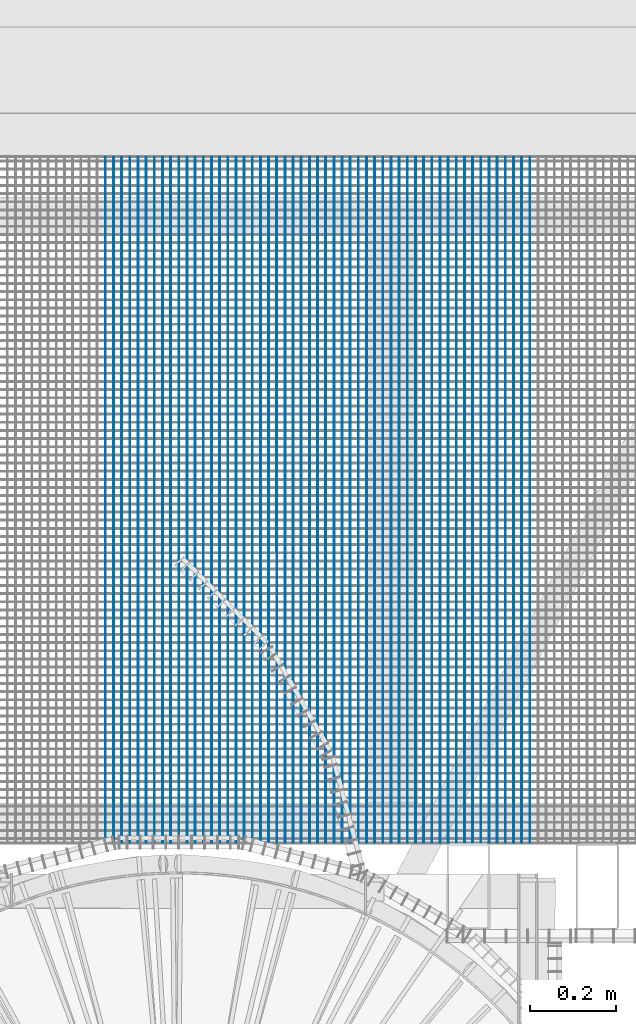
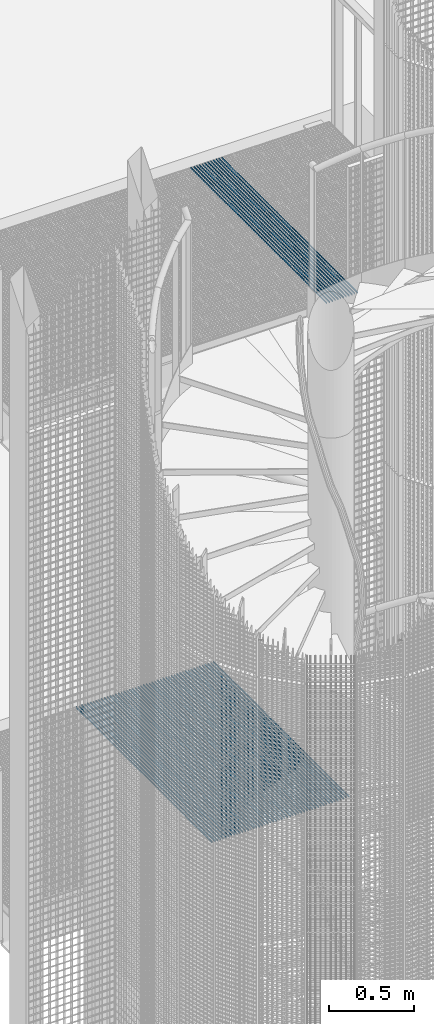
# One storey, part 99 of 1183: 62 beams, 2 elements without a shape of their own.
"""IFC2X3 building model written with IfcOpenShell, lengths in millimetres."""

from ifc_helpers import new_model, si_unit, frame, origin_with_axes, origin_2d_with_axis, place, context, subcontext, project, spatial, rectangle, extrude, material, type_object, element, aggregate, save


model = new_model("IFC2X3")

# Units and contexts
model_context = context("Model", 3, precision=1e-05, world=origin_with_axes())
body_context = subcontext(model_context, "Body", "Model", "MODEL_VIEW")
ifc_project = project(units=[si_unit("LENGTHUNIT", "METRE", prefix="MILLI"), si_unit("AREAUNIT", "SQUARE_METRE"), si_unit("VOLUMEUNIT", "CUBIC_METRE"), si_unit("MASSUNIT", "GRAM", prefix="KILO"), si_unit("TIMEUNIT", "SECOND"), si_unit("PLANEANGLEUNIT", "RADIAN"), si_unit("SOLIDANGLEUNIT", "STERADIAN"), si_unit("THERMODYNAMICTEMPERATUREUNIT", "DEGREE_CELSIUS"), si_unit("LUMINOUSINTENSITYUNIT", "LUMEN")], contexts=[model_context])

# Site, building, storey
site_placement = place(None, origin_with_axes())
site = spatial("IfcSite", under=ifc_project, at=site_placement, Name="Undefined", CompositionType="ELEMENT")
building_placement = place(site_placement, origin_with_axes())
building = spatial("IfcBuilding", under=site, at=building_placement, Name="Undefined", CompositionType="ELEMENT")
storey_placement = place(building_placement, origin_with_axes())
storey = spatial("IfcBuildingStorey", under=building, at=storey_placement, Name="Undefined", CompositionType="ELEMENT", Elevation=0.0)

# Assembly, beams
assembly_1_placement = place(storey_placement, origin_with_axes())
assembly_1 = element("IfcElementAssembly", 1, at=assembly_1_placement, inside=storey, Name="BORDURE", AssemblyPlace="NOTDEFINED", PredefinedType="NOTDEFINED")
ifc_material = material(Name="STEEL/S235JR")
beam_type = type_object("IfcBeamType", Name="PL2*10", PredefinedType="NOTDEFINED")
beam_1_placement = place(assembly_1_placement, frame((22208.1154247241, 1102.00531160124, 10085.0), z_axis=(0.0, 0.0, 1.0), x_axis=(-4.50599999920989e-06, 0.999999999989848, 0.0)))
beam_1 = element("IfcBeam", 2, at=beam_1_placement, type_object=beam_type, material=ifc_material, Name="ENTRETOISE", context=body_context, shape_type="SweptSolid", body=[
    extrude(rectangle(XDim=2.0, YDim=10.0, at=origin_2d_with_axis()), frame((1596.0000000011, -1.35186458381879e-18, -7.27595761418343e-12), z_axis=(-1.0, 0.0, 0.0), x_axis=(0.0, -1.0, 0.0)), (0.0, 0.0, 1.0), 1596.0),
])
beam_2_placement = place(assembly_1_placement, frame((22227.115424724, 1102.00540511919, 10085.0), z_axis=(0.0, 0.0, 1.0), x_axis=(-4.50599999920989e-06, 0.999999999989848, 0.0)))
beam_2 = element("IfcBeam", 3, at=beam_2_placement, type_object=beam_type, material=ifc_material, Name="ENTRETOISE", context=body_context, shape_type="SweptSolid", body=[
    extrude(rectangle(XDim=2.0, YDim=10.0, at=origin_2d_with_axis()), frame((1596.0000000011, -1.35186458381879e-18, -7.27595761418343e-12), z_axis=(-1.0, 0.0, 0.0), x_axis=(0.0, -1.0, 0.0)), (0.0, 0.0, 1.0), 1596.0),
])
beam_3_placement = place(assembly_1_placement, frame((22246.1154247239, 1102.00549863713, 10085.0), z_axis=(0.0, 0.0, 1.0), x_axis=(-4.50599999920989e-06, 0.999999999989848, 0.0)))
beam_3 = element("IfcBeam", 4, at=beam_3_placement, type_object=beam_type, material=ifc_material, Name="ENTRETOISE", context=body_context, shape_type="SweptSolid", body=[
    extrude(rectangle(XDim=2.0, YDim=10.0, at=origin_2d_with_axis()), frame((1596.0000000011, -1.35186458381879e-18, -7.27595761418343e-12), z_axis=(-1.0, 0.0, 0.0), x_axis=(0.0, -1.0, 0.0)), (0.0, 0.0, 1.0), 1596.0),
])
beam_4_placement = place(assembly_1_placement, frame((22265.1154247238, 1102.00559215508, 10085.0), z_axis=(0.0, 0.0, 1.0), x_axis=(-4.50599999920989e-06, 0.999999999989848, 0.0)))
beam_4 = element("IfcBeam", 5, at=beam_4_placement, type_object=beam_type, material=ifc_material, Name="ENTRETOISE", context=body_context, shape_type="SweptSolid", body=[
    extrude(rectangle(XDim=2.0, YDim=10.0, at=origin_2d_with_axis()), frame((1596.0000000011, -1.35186458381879e-18, -7.27595761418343e-12), z_axis=(-1.0, 0.0, 0.0), x_axis=(0.0, -1.0, 0.0)), (0.0, 0.0, 1.0), 1596.0),
])
beam_5_placement = place(assembly_1_placement, frame((22284.1154247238, 1102.00568567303, 10085.0), z_axis=(0.0, 0.0, 1.0), x_axis=(-4.50599999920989e-06, 0.999999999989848, 0.0)))
beam_5 = element("IfcBeam", 6, at=beam_5_placement, type_object=beam_type, material=ifc_material, Name="ENTRETOISE", context=body_context, shape_type="SweptSolid", body=[
    extrude(rectangle(XDim=2.0, YDim=10.0, at=origin_2d_with_axis()), frame((1596.0000000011, -1.35186458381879e-18, -7.27595761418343e-12), z_axis=(-1.0, 0.0, 0.0), x_axis=(0.0, -1.0, 0.0)), (0.0, 0.0, 1.0), 1596.0),
])
beam_6_placement = place(assembly_1_placement, frame((22303.1154247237, 1102.00577919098, 10085.0), z_axis=(0.0, 0.0, 1.0), x_axis=(-4.50599999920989e-06, 0.999999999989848, 0.0)))
beam_6 = element("IfcBeam", 7, at=beam_6_placement, type_object=beam_type, material=ifc_material, Name="ENTRETOISE", context=body_context, shape_type="SweptSolid", body=[
    extrude(rectangle(XDim=2.0, YDim=10.0, at=origin_2d_with_axis()), frame((1596.0000000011, -1.35186458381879e-18, -7.27595761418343e-12), z_axis=(-1.0, 0.0, 0.0), x_axis=(0.0, -1.0, 0.0)), (0.0, 0.0, 1.0), 1596.0),
])
beam_7_placement = place(assembly_1_placement, frame((22322.1154247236, 1102.00587270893, 10085.0), z_axis=(0.0, 0.0, 1.0), x_axis=(-4.50599999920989e-06, 0.999999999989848, 0.0)))
beam_7 = element("IfcBeam", 8, at=beam_7_placement, type_object=beam_type, material=ifc_material, Name="ENTRETOISE", context=body_context, shape_type="SweptSolid", body=[
    extrude(rectangle(XDim=2.0, YDim=10.0, at=origin_2d_with_axis()), frame((1596.0000000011, -1.35186458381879e-18, -7.27595761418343e-12), z_axis=(-1.0, 0.0, 0.0), x_axis=(0.0, -1.0, 0.0)), (0.0, 0.0, 1.0), 1596.0),
])
beam_8_placement = place(assembly_1_placement, frame((22341.1154247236, 1102.00596622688, 10085.0), z_axis=(0.0, 0.0, 1.0), x_axis=(-4.50599999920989e-06, 0.999999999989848, 0.0)))
beam_8 = element("IfcBeam", 9, at=beam_8_placement, type_object=beam_type, material=ifc_material, Name="ENTRETOISE", context=body_context, shape_type="SweptSolid", body=[
    extrude(rectangle(XDim=2.0, YDim=10.0, at=origin_2d_with_axis()), frame((1596.0000000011, -1.35186458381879e-18, -7.27595761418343e-12), z_axis=(-1.0, 0.0, 0.0), x_axis=(0.0, -1.0, 0.0)), (0.0, 0.0, 1.0), 1596.0),
])
beam_9_placement = place(assembly_1_placement, frame((22360.1154247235, 1102.00605974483, 10085.0), z_axis=(0.0, 0.0, 1.0), x_axis=(-4.50599999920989e-06, 0.999999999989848, 0.0)))
beam_9 = element("IfcBeam", 10, at=beam_9_placement, type_object=beam_type, material=ifc_material, Name="ENTRETOISE", context=body_context, shape_type="SweptSolid", body=[
    extrude(rectangle(XDim=2.0, YDim=10.0, at=origin_2d_with_axis()), frame((1596.0000000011, -1.35186458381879e-18, -7.27595761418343e-12), z_axis=(-1.0, 0.0, 0.0), x_axis=(0.0, -1.0, 0.0)), (0.0, 0.0, 1.0), 1596.0),
])
beam_10_placement = place(assembly_1_placement, frame((22379.1154247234, 1102.00615326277, 10085.0), z_axis=(0.0, 0.0, 1.0), x_axis=(-4.50599999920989e-06, 0.999999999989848, 0.0)))
beam_10 = element("IfcBeam", 11, at=beam_10_placement, type_object=beam_type, material=ifc_material, Name="ENTRETOISE", context=body_context, shape_type="SweptSolid", body=[
    extrude(rectangle(XDim=2.0, YDim=10.0, at=origin_2d_with_axis()), frame((1596.0000000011, -1.35186458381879e-18, -7.27595761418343e-12), z_axis=(-1.0, 0.0, 0.0), x_axis=(0.0, -1.0, 0.0)), (0.0, 0.0, 1.0), 1596.0),
])
beam_11_placement = place(assembly_1_placement, frame((22398.1154247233, 1102.00624678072, 10085.0), z_axis=(0.0, 0.0, 1.0), x_axis=(-4.50599999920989e-06, 0.999999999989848, 0.0)))
beam_11 = element("IfcBeam", 12, at=beam_11_placement, type_object=beam_type, material=ifc_material, Name="ENTRETOISE", context=body_context, shape_type="SweptSolid", body=[
    extrude(rectangle(XDim=2.0, YDim=10.0, at=origin_2d_with_axis()), frame((1596.0000000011, -1.35186458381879e-18, -7.27595761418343e-12), z_axis=(-1.0, 0.0, 0.0), x_axis=(0.0, -1.0, 0.0)), (0.0, 0.0, 1.0), 1596.0),
])
beam_12_placement = place(assembly_1_placement, frame((22417.1154247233, 1102.00634029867, 10085.0), z_axis=(0.0, 0.0, 1.0), x_axis=(-4.50599999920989e-06, 0.999999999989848, 0.0)))
beam_12 = element("IfcBeam", 13, at=beam_12_placement, type_object=beam_type, material=ifc_material, Name="ENTRETOISE", context=body_context, shape_type="SweptSolid", body=[
    extrude(rectangle(XDim=2.0, YDim=10.0, at=origin_2d_with_axis()), frame((1596.0000000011, -1.35186458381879e-18, -7.27595761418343e-12), z_axis=(-1.0, 0.0, 0.0), x_axis=(0.0, -1.0, 0.0)), (0.0, 0.0, 1.0), 1596.0),
])
aggregate(assembly_1, [beam_1, beam_2, beam_3, beam_4, beam_5, beam_6, beam_7, beam_8, beam_9, beam_10, beam_11, beam_12])

assembly_2_placement = place(storey_placement, origin_with_axes())
assembly_2 = element("IfcElementAssembly", 14, at=assembly_2_placement, inside=storey, Name="BORDURE", AssemblyPlace="NOTDEFINED", PredefinedType="NOTDEFINED")
beam_13_placement = place(assembly_2_placement, frame((21429.115424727, 1102.00147736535, 6485.0), z_axis=(0.0, 0.0, 1.0), x_axis=(-4.50599999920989e-06, 0.999999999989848, 0.0)))
beam_13 = element("IfcBeam", 15, at=beam_13_placement, type_object=beam_type, material=ifc_material, Name="ENTRETOISE", context=body_context, shape_type="SweptSolid", body=[
    extrude(rectangle(XDim=2.0, YDim=10.0, at=origin_2d_with_axis()), frame((1596.0000000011, -1.35186458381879e-18, -7.27595761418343e-12), z_axis=(-1.0, 0.0, 0.0), x_axis=(0.0, -1.0, 0.0)), (0.0, 0.0, 1.0), 1596.0),
])
beam_14_placement = place(assembly_2_placement, frame((21448.1154247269, 1102.0015708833, 6485.0), z_axis=(0.0, 0.0, 1.0), x_axis=(-4.50599999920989e-06, 0.999999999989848, 0.0)))
beam_14 = element("IfcBeam", 16, at=beam_14_placement, type_object=beam_type, material=ifc_material, Name="ENTRETOISE", context=body_context, shape_type="SweptSolid", body=[
    extrude(rectangle(XDim=2.0, YDim=10.0, at=origin_2d_with_axis()), frame((1596.0000000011, -1.35186458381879e-18, -7.27595761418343e-12), z_axis=(-1.0, 0.0, 0.0), x_axis=(0.0, -1.0, 0.0)), (0.0, 0.0, 1.0), 1596.0),
])
beam_15_placement = place(assembly_2_placement, frame((21467.1154247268, 1102.00166440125, 6485.0), z_axis=(0.0, 0.0, 1.0), x_axis=(-4.50599999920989e-06, 0.999999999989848, 0.0)))
beam_15 = element("IfcBeam", 17, at=beam_15_placement, type_object=beam_type, material=ifc_material, Name="ENTRETOISE", context=body_context, shape_type="SweptSolid", body=[
    extrude(rectangle(XDim=2.0, YDim=10.0, at=origin_2d_with_axis()), frame((1596.0000000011, -1.35186458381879e-18, -7.27595761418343e-12), z_axis=(-1.0, 0.0, 0.0), x_axis=(0.0, -1.0, 0.0)), (0.0, 0.0, 1.0), 1596.0),
])
beam_16_placement = place(assembly_2_placement, frame((21486.1154247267, 1102.0017579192, 6485.0), z_axis=(0.0, 0.0, 1.0), x_axis=(-4.50599999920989e-06, 0.999999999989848, 0.0)))
beam_16 = element("IfcBeam", 18, at=beam_16_placement, type_object=beam_type, material=ifc_material, Name="ENTRETOISE", context=body_context, shape_type="SweptSolid", body=[
    extrude(rectangle(XDim=2.0, YDim=10.0, at=origin_2d_with_axis()), frame((1596.0000000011, -1.35186458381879e-18, -7.27595761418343e-12), z_axis=(-1.0, 0.0, 0.0), x_axis=(0.0, -1.0, 0.0)), (0.0, 0.0, 1.0), 1596.0),
])
beam_17_placement = place(assembly_2_placement, frame((21505.1154247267, 1102.00185143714, 6485.0), z_axis=(0.0, 0.0, 1.0), x_axis=(-4.50599999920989e-06, 0.999999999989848, 0.0)))
beam_17 = element("IfcBeam", 19, at=beam_17_placement, type_object=beam_type, material=ifc_material, Name="ENTRETOISE", context=body_context, shape_type="SweptSolid", body=[
    extrude(rectangle(XDim=2.0, YDim=10.0, at=origin_2d_with_axis()), frame((1596.0000000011, -1.35186458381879e-18, -7.27595761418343e-12), z_axis=(-1.0, 0.0, 0.0), x_axis=(0.0, -1.0, 0.0)), (0.0, 0.0, 1.0), 1596.0),
])
beam_18_placement = place(assembly_2_placement, frame((21524.1154247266, 1102.00194495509, 6485.0), z_axis=(0.0, 0.0, 1.0), x_axis=(-4.50599999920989e-06, 0.999999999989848, 0.0)))
beam_18 = element("IfcBeam", 20, at=beam_18_placement, type_object=beam_type, material=ifc_material, Name="ENTRETOISE", context=body_context, shape_type="SweptSolid", body=[
    extrude(rectangle(XDim=2.0, YDim=10.0, at=origin_2d_with_axis()), frame((1596.0000000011, -1.35186458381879e-18, -7.27595761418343e-12), z_axis=(-1.0, 0.0, 0.0), x_axis=(0.0, -1.0, 0.0)), (0.0, 0.0, 1.0), 1596.0),
])
beam_19_placement = place(assembly_2_placement, frame((21543.1154247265, 1102.00203847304, 6485.0), z_axis=(0.0, 0.0, 1.0), x_axis=(-4.50599999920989e-06, 0.999999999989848, 0.0)))
beam_19 = element("IfcBeam", 21, at=beam_19_placement, type_object=beam_type, material=ifc_material, Name="ENTRETOISE", context=body_context, shape_type="SweptSolid", body=[
    extrude(rectangle(XDim=2.0, YDim=10.0, at=origin_2d_with_axis()), frame((1596.0000000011, -1.35186458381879e-18, -7.27595761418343e-12), z_axis=(-1.0, 0.0, 0.0), x_axis=(0.0, -1.0, 0.0)), (0.0, 0.0, 1.0), 1596.0),
])
beam_20_placement = place(assembly_2_placement, frame((21562.1154247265, 1102.00213199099, 6485.0), z_axis=(0.0, 0.0, 1.0), x_axis=(-4.50599999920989e-06, 0.999999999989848, 0.0)))
beam_20 = element("IfcBeam", 22, at=beam_20_placement, type_object=beam_type, material=ifc_material, Name="ENTRETOISE", context=body_context, shape_type="SweptSolid", body=[
    extrude(rectangle(XDim=2.0, YDim=10.0, at=origin_2d_with_axis()), frame((1596.0000000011, -1.35186458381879e-18, -7.27595761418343e-12), z_axis=(-1.0, 0.0, 0.0), x_axis=(0.0, -1.0, 0.0)), (0.0, 0.0, 1.0), 1596.0),
])
beam_21_placement = place(assembly_2_placement, frame((21581.1154247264, 1102.00222550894, 6485.0), z_axis=(0.0, 0.0, 1.0), x_axis=(-4.50599999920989e-06, 0.999999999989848, 0.0)))
beam_21 = element("IfcBeam", 23, at=beam_21_placement, type_object=beam_type, material=ifc_material, Name="ENTRETOISE", context=body_context, shape_type="SweptSolid", body=[
    extrude(rectangle(XDim=2.0, YDim=10.0, at=origin_2d_with_axis()), frame((1596.0000000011, -1.35186458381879e-18, -7.27595761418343e-12), z_axis=(-1.0, 0.0, 0.0), x_axis=(0.0, -1.0, 0.0)), (0.0, 0.0, 1.0), 1596.0),
])
beam_22_placement = place(assembly_2_placement, frame((21600.1154247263, 1102.00231902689, 6485.0), z_axis=(0.0, 0.0, 1.0), x_axis=(-4.50599999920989e-06, 0.999999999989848, 0.0)))
beam_22 = element("IfcBeam", 24, at=beam_22_placement, type_object=beam_type, material=ifc_material, Name="ENTRETOISE", context=body_context, shape_type="SweptSolid", body=[
    extrude(rectangle(XDim=2.0, YDim=10.0, at=origin_2d_with_axis()), frame((1596.0000000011, -1.35186458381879e-18, -7.27595761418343e-12), z_axis=(-1.0, 0.0, 0.0), x_axis=(0.0, -1.0, 0.0)), (0.0, 0.0, 1.0), 1596.0),
])
beam_23_placement = place(assembly_2_placement, frame((21619.1154247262, 1102.00241254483, 6485.0), z_axis=(0.0, 0.0, 1.0), x_axis=(-4.50599999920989e-06, 0.999999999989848, 0.0)))
beam_23 = element("IfcBeam", 25, at=beam_23_placement, type_object=beam_type, material=ifc_material, Name="ENTRETOISE", context=body_context, shape_type="SweptSolid", body=[
    extrude(rectangle(XDim=2.0, YDim=10.0, at=origin_2d_with_axis()), frame((1596.0000000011, -1.35186458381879e-18, -7.27595761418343e-12), z_axis=(-1.0, 0.0, 0.0), x_axis=(0.0, -1.0, 0.0)), (0.0, 0.0, 1.0), 1596.0),
])
beam_24_placement = place(assembly_2_placement, frame((21638.1154247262, 1102.00250606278, 6485.0), z_axis=(0.0, 0.0, 1.0), x_axis=(-4.50599999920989e-06, 0.999999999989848, 0.0)))
beam_24 = element("IfcBeam", 26, at=beam_24_placement, type_object=beam_type, material=ifc_material, Name="ENTRETOISE", context=body_context, shape_type="SweptSolid", body=[
    extrude(rectangle(XDim=2.0, YDim=10.0, at=origin_2d_with_axis()), frame((1596.0000000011, -1.35186458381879e-18, -7.27595761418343e-12), z_axis=(-1.0, 0.0, 0.0), x_axis=(0.0, -1.0, 0.0)), (0.0, 0.0, 1.0), 1596.0),
])
beam_25_placement = place(assembly_2_placement, frame((21657.1154247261, 1102.00259958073, 6485.0), z_axis=(0.0, 0.0, 1.0), x_axis=(-4.50599999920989e-06, 0.999999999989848, 0.0)))
beam_25 = element("IfcBeam", 27, at=beam_25_placement, type_object=beam_type, material=ifc_material, Name="ENTRETOISE", context=body_context, shape_type="SweptSolid", body=[
    extrude(rectangle(XDim=2.0, YDim=10.0, at=origin_2d_with_axis()), frame((1596.0000000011, -1.35186458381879e-18, -7.27595761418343e-12), z_axis=(-1.0, 0.0, 0.0), x_axis=(0.0, -1.0, 0.0)), (0.0, 0.0, 1.0), 1596.0),
])
beam_26_placement = place(assembly_2_placement, frame((21676.115424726, 1102.00269309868, 6485.0), z_axis=(0.0, 0.0, 1.0), x_axis=(-4.50599999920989e-06, 0.999999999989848, 0.0)))
beam_26 = element("IfcBeam", 28, at=beam_26_placement, type_object=beam_type, material=ifc_material, Name="ENTRETOISE", context=body_context, shape_type="SweptSolid", body=[
    extrude(rectangle(XDim=2.0, YDim=10.0, at=origin_2d_with_axis()), frame((1596.0000000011, -1.35186458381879e-18, -7.27595761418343e-12), z_axis=(-1.0, 0.0, 0.0), x_axis=(0.0, -1.0, 0.0)), (0.0, 0.0, 1.0), 1596.0),
])
beam_27_placement = place(assembly_2_placement, frame((21695.115424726, 1102.00278661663, 6485.0), z_axis=(0.0, 0.0, 1.0), x_axis=(-4.50599999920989e-06, 0.999999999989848, 0.0)))
beam_27 = element("IfcBeam", 29, at=beam_27_placement, type_object=beam_type, material=ifc_material, Name="ENTRETOISE", context=body_context, shape_type="SweptSolid", body=[
    extrude(rectangle(XDim=2.0, YDim=10.0, at=origin_2d_with_axis()), frame((1596.0000000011, -1.35186458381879e-18, -7.27595761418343e-12), z_axis=(-1.0, 0.0, 0.0), x_axis=(0.0, -1.0, 0.0)), (0.0, 0.0, 1.0), 1596.0),
])
beam_28_placement = place(assembly_2_placement, frame((21714.1154247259, 1102.00288013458, 6485.0), z_axis=(0.0, 0.0, 1.0), x_axis=(-4.50599999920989e-06, 0.999999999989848, 0.0)))
beam_28 = element("IfcBeam", 30, at=beam_28_placement, type_object=beam_type, material=ifc_material, Name="ENTRETOISE", context=body_context, shape_type="SweptSolid", body=[
    extrude(rectangle(XDim=2.0, YDim=10.0, at=origin_2d_with_axis()), frame((1596.0000000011, -1.35186458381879e-18, -7.27595761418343e-12), z_axis=(-1.0, 0.0, 0.0), x_axis=(0.0, -1.0, 0.0)), (0.0, 0.0, 1.0), 1596.0),
])
beam_29_placement = place(assembly_2_placement, frame((21733.1154247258, 1102.00297365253, 6485.0), z_axis=(0.0, 0.0, 1.0), x_axis=(-4.50599999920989e-06, 0.999999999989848, 0.0)))
beam_29 = element("IfcBeam", 31, at=beam_29_placement, type_object=beam_type, material=ifc_material, Name="ENTRETOISE", context=body_context, shape_type="SweptSolid", body=[
    extrude(rectangle(XDim=2.0, YDim=10.0, at=origin_2d_with_axis()), frame((1596.0000000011, -1.35186458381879e-18, -7.27595761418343e-12), z_axis=(-1.0, 0.0, 0.0), x_axis=(0.0, -1.0, 0.0)), (0.0, 0.0, 1.0), 1596.0),
])
beam_30_placement = place(assembly_2_placement, frame((21752.1154247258, 1102.00306717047, 6485.0), z_axis=(0.0, 0.0, 1.0), x_axis=(-4.50599999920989e-06, 0.999999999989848, 0.0)))
beam_30 = element("IfcBeam", 32, at=beam_30_placement, type_object=beam_type, material=ifc_material, Name="ENTRETOISE", context=body_context, shape_type="SweptSolid", body=[
    extrude(rectangle(XDim=2.0, YDim=10.0, at=origin_2d_with_axis()), frame((1596.0000000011, -1.35186458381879e-18, -7.27595761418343e-12), z_axis=(-1.0, 0.0, 0.0), x_axis=(0.0, -1.0, 0.0)), (0.0, 0.0, 1.0), 1596.0),
])
beam_31_placement = place(assembly_2_placement, frame((21771.1154247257, 1102.00316068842, 6485.0), z_axis=(0.0, 0.0, 1.0), x_axis=(-4.50599999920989e-06, 0.999999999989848, 0.0)))
beam_31 = element("IfcBeam", 33, at=beam_31_placement, type_object=beam_type, material=ifc_material, Name="ENTRETOISE", context=body_context, shape_type="SweptSolid", body=[
    extrude(rectangle(XDim=2.0, YDim=10.0, at=origin_2d_with_axis()), frame((1596.0000000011, -1.35186458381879e-18, -7.27595761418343e-12), z_axis=(-1.0, 0.0, 0.0), x_axis=(0.0, -1.0, 0.0)), (0.0, 0.0, 1.0), 1596.0),
])
beam_32_placement = place(assembly_2_placement, frame((21790.1154247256, 1102.00325420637, 6485.0), z_axis=(0.0, 0.0, 1.0), x_axis=(-4.50599999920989e-06, 0.999999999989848, 0.0)))
beam_32 = element("IfcBeam", 34, at=beam_32_placement, type_object=beam_type, material=ifc_material, Name="ENTRETOISE", context=body_context, shape_type="SweptSolid", body=[
    extrude(rectangle(XDim=2.0, YDim=10.0, at=origin_2d_with_axis()), frame((1596.0000000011, -1.35186458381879e-18, -7.27595761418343e-12), z_axis=(-1.0, 0.0, 0.0), x_axis=(0.0, -1.0, 0.0)), (0.0, 0.0, 1.0), 1596.0),
])
beam_33_placement = place(assembly_2_placement, frame((21809.1154247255, 1102.00334772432, 6485.0), z_axis=(0.0, 0.0, 1.0), x_axis=(-4.50599999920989e-06, 0.999999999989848, 0.0)))
beam_33 = element("IfcBeam", 35, at=beam_33_placement, type_object=beam_type, material=ifc_material, Name="ENTRETOISE", context=body_context, shape_type="SweptSolid", body=[
    extrude(rectangle(XDim=2.0, YDim=10.0, at=origin_2d_with_axis()), frame((1596.0000000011, -1.35186458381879e-18, -7.27595761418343e-12), z_axis=(-1.0, 0.0, 0.0), x_axis=(0.0, -1.0, 0.0)), (0.0, 0.0, 1.0), 1596.0),
])
beam_34_placement = place(assembly_2_placement, frame((21828.1154247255, 1102.00344124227, 6485.0), z_axis=(0.0, 0.0, 1.0), x_axis=(-4.50599999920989e-06, 0.999999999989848, 0.0)))
beam_34 = element("IfcBeam", 36, at=beam_34_placement, type_object=beam_type, material=ifc_material, Name="ENTRETOISE", context=body_context, shape_type="SweptSolid", body=[
    extrude(rectangle(XDim=2.0, YDim=10.0, at=origin_2d_with_axis()), frame((1596.0000000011, -1.35186458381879e-18, -7.27595761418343e-12), z_axis=(-1.0, 0.0, 0.0), x_axis=(0.0, -1.0, 0.0)), (0.0, 0.0, 1.0), 1596.0),
])
beam_35_placement = place(assembly_2_placement, frame((21847.1154247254, 1102.00353476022, 6485.0), z_axis=(0.0, 0.0, 1.0), x_axis=(-4.50599999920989e-06, 0.999999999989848, 0.0)))
beam_35 = element("IfcBeam", 37, at=beam_35_placement, type_object=beam_type, material=ifc_material, Name="ENTRETOISE", context=body_context, shape_type="SweptSolid", body=[
    extrude(rectangle(XDim=2.0, YDim=10.0, at=origin_2d_with_axis()), frame((1596.0000000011, -1.35186458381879e-18, -7.27595761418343e-12), z_axis=(-1.0, 0.0, 0.0), x_axis=(0.0, -1.0, 0.0)), (0.0, 0.0, 1.0), 1596.0),
])
beam_36_placement = place(assembly_2_placement, frame((21866.1154247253, 1102.00362827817, 6485.0), z_axis=(0.0, 0.0, 1.0), x_axis=(-4.50599999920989e-06, 0.999999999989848, 0.0)))
beam_36 = element("IfcBeam", 38, at=beam_36_placement, type_object=beam_type, material=ifc_material, Name="ENTRETOISE", context=body_context, shape_type="SweptSolid", body=[
    extrude(rectangle(XDim=2.0, YDim=10.0, at=origin_2d_with_axis()), frame((1596.0000000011, -1.35186458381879e-18, -7.27595761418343e-12), z_axis=(-1.0, 0.0, 0.0), x_axis=(0.0, -1.0, 0.0)), (0.0, 0.0, 1.0), 1596.0),
])
beam_37_placement = place(assembly_2_placement, frame((21885.1154247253, 1102.00372179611, 6485.0), z_axis=(0.0, 0.0, 1.0), x_axis=(-4.50599999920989e-06, 0.999999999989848, 0.0)))
beam_37 = element("IfcBeam", 39, at=beam_37_placement, type_object=beam_type, material=ifc_material, Name="ENTRETOISE", context=body_context, shape_type="SweptSolid", body=[
    extrude(rectangle(XDim=2.0, YDim=10.0, at=origin_2d_with_axis()), frame((1596.0000000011, -1.35186458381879e-18, -7.27595761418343e-12), z_axis=(-1.0, 0.0, 0.0), x_axis=(0.0, -1.0, 0.0)), (0.0, 0.0, 1.0), 1596.0),
])
beam_38_placement = place(assembly_2_placement, frame((21904.1154247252, 1102.00381531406, 6485.0), z_axis=(0.0, 0.0, 1.0), x_axis=(-4.50599999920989e-06, 0.999999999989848, 0.0)))
beam_38 = element("IfcBeam", 40, at=beam_38_placement, type_object=beam_type, material=ifc_material, Name="ENTRETOISE", context=body_context, shape_type="SweptSolid", body=[
    extrude(rectangle(XDim=2.0, YDim=10.0, at=origin_2d_with_axis()), frame((1596.0000000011, -1.35186458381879e-18, -7.27595761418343e-12), z_axis=(-1.0, 0.0, 0.0), x_axis=(0.0, -1.0, 0.0)), (0.0, 0.0, 1.0), 1596.0),
])
beam_39_placement = place(assembly_2_placement, frame((21923.1154247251, 1102.00390883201, 6485.0), z_axis=(0.0, 0.0, 1.0), x_axis=(-4.50599999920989e-06, 0.999999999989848, 0.0)))
beam_39 = element("IfcBeam", 41, at=beam_39_placement, type_object=beam_type, material=ifc_material, Name="ENTRETOISE", context=body_context, shape_type="SweptSolid", body=[
    extrude(rectangle(XDim=2.0, YDim=10.0, at=origin_2d_with_axis()), frame((1596.0000000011, -1.35186458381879e-18, -7.27595761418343e-12), z_axis=(-1.0, 0.0, 0.0), x_axis=(0.0, -1.0, 0.0)), (0.0, 0.0, 1.0), 1596.0),
])
beam_40_placement = place(assembly_2_placement, frame((21942.115424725, 1102.00400234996, 6485.0), z_axis=(0.0, 0.0, 1.0), x_axis=(-4.50599999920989e-06, 0.999999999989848, 0.0)))
beam_40 = element("IfcBeam", 42, at=beam_40_placement, type_object=beam_type, material=ifc_material, Name="ENTRETOISE", context=body_context, shape_type="SweptSolid", body=[
    extrude(rectangle(XDim=2.0, YDim=10.0, at=origin_2d_with_axis()), frame((1596.0000000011, -1.35186458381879e-18, -7.27595761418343e-12), z_axis=(-1.0, 0.0, 0.0), x_axis=(0.0, -1.0, 0.0)), (0.0, 0.0, 1.0), 1596.0),
])
beam_41_placement = place(assembly_2_placement, frame((21961.115424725, 1102.00409586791, 6485.0), z_axis=(0.0, 0.0, 1.0), x_axis=(-4.50599999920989e-06, 0.999999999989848, 0.0)))
beam_41 = element("IfcBeam", 43, at=beam_41_placement, type_object=beam_type, material=ifc_material, Name="ENTRETOISE", context=body_context, shape_type="SweptSolid", body=[
    extrude(rectangle(XDim=2.0, YDim=10.0, at=origin_2d_with_axis()), frame((1596.0000000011, -1.35186458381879e-18, -7.27595761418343e-12), z_axis=(-1.0, 0.0, 0.0), x_axis=(0.0, -1.0, 0.0)), (0.0, 0.0, 1.0), 1596.0),
])
beam_42_placement = place(assembly_2_placement, frame((21980.1154247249, 1102.00418938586, 6485.0), z_axis=(0.0, 0.0, 1.0), x_axis=(-4.50599999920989e-06, 0.999999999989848, 0.0)))
beam_42 = element("IfcBeam", 44, at=beam_42_placement, type_object=beam_type, material=ifc_material, Name="ENTRETOISE", context=body_context, shape_type="SweptSolid", body=[
    extrude(rectangle(XDim=2.0, YDim=10.0, at=origin_2d_with_axis()), frame((1596.0000000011, -1.35186458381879e-18, -7.27595761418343e-12), z_axis=(-1.0, 0.0, 0.0), x_axis=(0.0, -1.0, 0.0)), (0.0, 0.0, 1.0), 1596.0),
])
beam_43_placement = place(assembly_2_placement, frame((21999.1154247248, 1102.0042829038, 6485.0), z_axis=(0.0, 0.0, 1.0), x_axis=(-4.50599999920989e-06, 0.999999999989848, 0.0)))
beam_43 = element("IfcBeam", 45, at=beam_43_placement, type_object=beam_type, material=ifc_material, Name="ENTRETOISE", context=body_context, shape_type="SweptSolid", body=[
    extrude(rectangle(XDim=2.0, YDim=10.0, at=origin_2d_with_axis()), frame((1596.0000000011, -1.35186458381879e-18, -7.27595761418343e-12), z_axis=(-1.0, 0.0, 0.0), x_axis=(0.0, -1.0, 0.0)), (0.0, 0.0, 1.0), 1596.0),
])
beam_44_placement = place(assembly_2_placement, frame((22018.1154247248, 1102.00437642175, 6485.0), z_axis=(0.0, 0.0, 1.0), x_axis=(-4.50599999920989e-06, 0.999999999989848, 0.0)))
beam_44 = element("IfcBeam", 46, at=beam_44_placement, type_object=beam_type, material=ifc_material, Name="ENTRETOISE", context=body_context, shape_type="SweptSolid", body=[
    extrude(rectangle(XDim=2.0, YDim=10.0, at=origin_2d_with_axis()), frame((1596.0000000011, -1.35186458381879e-18, -7.27595761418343e-12), z_axis=(-1.0, 0.0, 0.0), x_axis=(0.0, -1.0, 0.0)), (0.0, 0.0, 1.0), 1596.0),
])
beam_45_placement = place(assembly_2_placement, frame((22037.1154247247, 1102.0044699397, 6485.0), z_axis=(0.0, 0.0, 1.0), x_axis=(-4.50599999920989e-06, 0.999999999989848, 0.0)))
beam_45 = element("IfcBeam", 47, at=beam_45_placement, type_object=beam_type, material=ifc_material, Name="ENTRETOISE", context=body_context, shape_type="SweptSolid", body=[
    extrude(rectangle(XDim=2.0, YDim=10.0, at=origin_2d_with_axis()), frame((1596.0000000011, -1.35186458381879e-18, -7.27595761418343e-12), z_axis=(-1.0, 0.0, 0.0), x_axis=(0.0, -1.0, 0.0)), (0.0, 0.0, 1.0), 1596.0),
])
beam_46_placement = place(assembly_2_placement, frame((22056.1154247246, 1102.00456345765, 6485.0), z_axis=(0.0, 0.0, 1.0), x_axis=(-4.50599999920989e-06, 0.999999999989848, 0.0)))
beam_46 = element("IfcBeam", 48, at=beam_46_placement, type_object=beam_type, material=ifc_material, Name="ENTRETOISE", context=body_context, shape_type="SweptSolid", body=[
    extrude(rectangle(XDim=2.0, YDim=10.0, at=origin_2d_with_axis()), frame((1596.0000000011, -1.35186458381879e-18, -7.27595761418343e-12), z_axis=(-1.0, 0.0, 0.0), x_axis=(0.0, -1.0, 0.0)), (0.0, 0.0, 1.0), 1596.0),
])
beam_47_placement = place(assembly_2_placement, frame((22075.1154247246, 1102.0046569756, 6485.0), z_axis=(0.0, 0.0, 1.0), x_axis=(-4.50599999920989e-06, 0.999999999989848, 0.0)))
beam_47 = element("IfcBeam", 49, at=beam_47_placement, type_object=beam_type, material=ifc_material, Name="ENTRETOISE", context=body_context, shape_type="SweptSolid", body=[
    extrude(rectangle(XDim=2.0, YDim=10.0, at=origin_2d_with_axis()), frame((1596.0000000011, -1.35186458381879e-18, -7.27595761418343e-12), z_axis=(-1.0, 0.0, 0.0), x_axis=(0.0, -1.0, 0.0)), (0.0, 0.0, 1.0), 1596.0),
])
beam_48_placement = place(assembly_2_placement, frame((22094.1154247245, 1102.00475049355, 6485.0), z_axis=(0.0, 0.0, 1.0), x_axis=(-4.50599999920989e-06, 0.999999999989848, 0.0)))
beam_48 = element("IfcBeam", 50, at=beam_48_placement, type_object=beam_type, material=ifc_material, Name="ENTRETOISE", context=body_context, shape_type="SweptSolid", body=[
    extrude(rectangle(XDim=2.0, YDim=10.0, at=origin_2d_with_axis()), frame((1596.0000000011, -1.35186458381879e-18, -7.27595761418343e-12), z_axis=(-1.0, 0.0, 0.0), x_axis=(0.0, -1.0, 0.0)), (0.0, 0.0, 1.0), 1596.0),
])
beam_49_placement = place(assembly_2_placement, frame((22113.1154247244, 1102.0048440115, 6485.0), z_axis=(0.0, 0.0, 1.0), x_axis=(-4.50599999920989e-06, 0.999999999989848, 0.0)))
beam_49 = element("IfcBeam", 51, at=beam_49_placement, type_object=beam_type, material=ifc_material, Name="ENTRETOISE", context=body_context, shape_type="SweptSolid", body=[
    extrude(rectangle(XDim=2.0, YDim=10.0, at=origin_2d_with_axis()), frame((1596.0000000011, -1.35186458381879e-18, -7.27595761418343e-12), z_axis=(-1.0, 0.0, 0.0), x_axis=(0.0, -1.0, 0.0)), (0.0, 0.0, 1.0), 1596.0),
])
beam_50_placement = place(assembly_2_placement, frame((22132.1154247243, 1102.00493752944, 6485.0), z_axis=(0.0, 0.0, 1.0), x_axis=(-4.50599999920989e-06, 0.999999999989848, 0.0)))
beam_50 = element("IfcBeam", 52, at=beam_50_placement, type_object=beam_type, material=ifc_material, Name="ENTRETOISE", context=body_context, shape_type="SweptSolid", body=[
    extrude(rectangle(XDim=2.0, YDim=10.0, at=origin_2d_with_axis()), frame((1596.0000000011, -1.35186458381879e-18, -7.27595761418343e-12), z_axis=(-1.0, 0.0, 0.0), x_axis=(0.0, -1.0, 0.0)), (0.0, 0.0, 1.0), 1596.0),
])
beam_51_placement = place(assembly_2_placement, frame((22151.1154247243, 1102.00503104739, 6485.0), z_axis=(0.0, 0.0, 1.0), x_axis=(-4.50599999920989e-06, 0.999999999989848, 0.0)))
beam_51 = element("IfcBeam", 53, at=beam_51_placement, type_object=beam_type, material=ifc_material, Name="ENTRETOISE", context=body_context, shape_type="SweptSolid", body=[
    extrude(rectangle(XDim=2.0, YDim=10.0, at=origin_2d_with_axis()), frame((1596.0000000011, -1.35186458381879e-18, -7.27595761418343e-12), z_axis=(-1.0, 0.0, 0.0), x_axis=(0.0, -1.0, 0.0)), (0.0, 0.0, 1.0), 1596.0),
])
beam_52_placement = place(assembly_2_placement, frame((22170.1154247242, 1102.00512456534, 6485.0), z_axis=(0.0, 0.0, 1.0), x_axis=(-4.50599999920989e-06, 0.999999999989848, 0.0)))
beam_52 = element("IfcBeam", 54, at=beam_52_placement, type_object=beam_type, material=ifc_material, Name="ENTRETOISE", context=body_context, shape_type="SweptSolid", body=[
    extrude(rectangle(XDim=2.0, YDim=10.0, at=origin_2d_with_axis()), frame((1596.0000000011, -1.35186458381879e-18, -7.27595761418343e-12), z_axis=(-1.0, 0.0, 0.0), x_axis=(0.0, -1.0, 0.0)), (0.0, 0.0, 1.0), 1596.0),
])
beam_53_placement = place(assembly_2_placement, frame((22189.1154247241, 1102.00521808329, 6485.0), z_axis=(0.0, 0.0, 1.0), x_axis=(-4.50599999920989e-06, 0.999999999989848, 0.0)))
beam_53 = element("IfcBeam", 55, at=beam_53_placement, type_object=beam_type, material=ifc_material, Name="ENTRETOISE", context=body_context, shape_type="SweptSolid", body=[
    extrude(rectangle(XDim=2.0, YDim=10.0, at=origin_2d_with_axis()), frame((1596.0000000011, -1.35186458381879e-18, -7.27595761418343e-12), z_axis=(-1.0, 0.0, 0.0), x_axis=(0.0, -1.0, 0.0)), (0.0, 0.0, 1.0), 1596.0),
])
beam_54_placement = place(assembly_2_placement, frame((22208.1154247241, 1102.00531160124, 6485.0), z_axis=(0.0, 0.0, 1.0), x_axis=(-4.50599999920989e-06, 0.999999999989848, 0.0)))
beam_54 = element("IfcBeam", 56, at=beam_54_placement, type_object=beam_type, material=ifc_material, Name="ENTRETOISE", context=body_context, shape_type="SweptSolid", body=[
    extrude(rectangle(XDim=2.0, YDim=10.0, at=origin_2d_with_axis()), frame((1596.0000000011, -1.35186458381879e-18, -7.27595761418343e-12), z_axis=(-1.0, 0.0, 0.0), x_axis=(0.0, -1.0, 0.0)), (0.0, 0.0, 1.0), 1596.0),
])
beam_55_placement = place(assembly_2_placement, frame((22227.115424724, 1102.00540511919, 6485.0), z_axis=(0.0, 0.0, 1.0), x_axis=(-4.50599999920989e-06, 0.999999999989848, 0.0)))
beam_55 = element("IfcBeam", 57, at=beam_55_placement, type_object=beam_type, material=ifc_material, Name="ENTRETOISE", context=body_context, shape_type="SweptSolid", body=[
    extrude(rectangle(XDim=2.0, YDim=10.0, at=origin_2d_with_axis()), frame((1596.0000000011, -1.35186458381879e-18, -7.27595761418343e-12), z_axis=(-1.0, 0.0, 0.0), x_axis=(0.0, -1.0, 0.0)), (0.0, 0.0, 1.0), 1596.0),
])
beam_56_placement = place(assembly_2_placement, frame((22246.1154247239, 1102.00549863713, 6485.0), z_axis=(0.0, 0.0, 1.0), x_axis=(-4.50599999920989e-06, 0.999999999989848, 0.0)))
beam_56 = element("IfcBeam", 58, at=beam_56_placement, type_object=beam_type, material=ifc_material, Name="ENTRETOISE", context=body_context, shape_type="SweptSolid", body=[
    extrude(rectangle(XDim=2.0, YDim=10.0, at=origin_2d_with_axis()), frame((1596.0000000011, -1.35186458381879e-18, -7.27595761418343e-12), z_axis=(-1.0, 0.0, 0.0), x_axis=(0.0, -1.0, 0.0)), (0.0, 0.0, 1.0), 1596.0),
])
beam_57_placement = place(assembly_2_placement, frame((22265.1154247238, 1102.00559215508, 6485.0), z_axis=(0.0, 0.0, 1.0), x_axis=(-4.50599999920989e-06, 0.999999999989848, 0.0)))
beam_57 = element("IfcBeam", 59, at=beam_57_placement, type_object=beam_type, material=ifc_material, Name="ENTRETOISE", context=body_context, shape_type="SweptSolid", body=[
    extrude(rectangle(XDim=2.0, YDim=10.0, at=origin_2d_with_axis()), frame((1596.0000000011, -1.35186458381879e-18, -7.27595761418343e-12), z_axis=(-1.0, 0.0, 0.0), x_axis=(0.0, -1.0, 0.0)), (0.0, 0.0, 1.0), 1596.0),
])
beam_58_placement = place(assembly_2_placement, frame((22284.1154247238, 1102.00568567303, 6485.0), z_axis=(0.0, 0.0, 1.0), x_axis=(-4.50599999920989e-06, 0.999999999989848, 0.0)))
beam_58 = element("IfcBeam", 60, at=beam_58_placement, type_object=beam_type, material=ifc_material, Name="ENTRETOISE", context=body_context, shape_type="SweptSolid", body=[
    extrude(rectangle(XDim=2.0, YDim=10.0, at=origin_2d_with_axis()), frame((1596.0000000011, -1.35186458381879e-18, -7.27595761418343e-12), z_axis=(-1.0, 0.0, 0.0), x_axis=(0.0, -1.0, 0.0)), (0.0, 0.0, 1.0), 1596.0),
])
beam_59_placement = place(assembly_2_placement, frame((22303.1154247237, 1102.00577919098, 6485.0), z_axis=(0.0, 0.0, 1.0), x_axis=(-4.50599999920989e-06, 0.999999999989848, 0.0)))
beam_59 = element("IfcBeam", 61, at=beam_59_placement, type_object=beam_type, material=ifc_material, Name="ENTRETOISE", context=body_context, shape_type="SweptSolid", body=[
    extrude(rectangle(XDim=2.0, YDim=10.0, at=origin_2d_with_axis()), frame((1596.0000000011, -1.35186458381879e-18, -7.27595761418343e-12), z_axis=(-1.0, 0.0, 0.0), x_axis=(0.0, -1.0, 0.0)), (0.0, 0.0, 1.0), 1596.0),
])
beam_60_placement = place(assembly_2_placement, frame((22322.1154247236, 1102.00587270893, 6485.0), z_axis=(0.0, 0.0, 1.0), x_axis=(-4.50599999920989e-06, 0.999999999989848, 0.0)))
beam_60 = element("IfcBeam", 62, at=beam_60_placement, type_object=beam_type, material=ifc_material, Name="ENTRETOISE", context=body_context, shape_type="SweptSolid", body=[
    extrude(rectangle(XDim=2.0, YDim=10.0, at=origin_2d_with_axis()), frame((1596.0000000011, -1.35186458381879e-18, -7.27595761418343e-12), z_axis=(-1.0, 0.0, 0.0), x_axis=(0.0, -1.0, 0.0)), (0.0, 0.0, 1.0), 1596.0),
])
beam_61_placement = place(assembly_2_placement, frame((22341.1154247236, 1102.00596622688, 6485.0), z_axis=(0.0, 0.0, 1.0), x_axis=(-4.50599999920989e-06, 0.999999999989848, 0.0)))
beam_61 = element("IfcBeam", 63, at=beam_61_placement, type_object=beam_type, material=ifc_material, Name="ENTRETOISE", context=body_context, shape_type="SweptSolid", body=[
    extrude(rectangle(XDim=2.0, YDim=10.0, at=origin_2d_with_axis()), frame((1596.0000000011, -1.35186458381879e-18, -7.27595761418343e-12), z_axis=(-1.0, 0.0, 0.0), x_axis=(0.0, -1.0, 0.0)), (0.0, 0.0, 1.0), 1596.0),
])
beam_62_placement = place(assembly_2_placement, frame((22360.1154247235, 1102.00605974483, 6485.0), z_axis=(0.0, 0.0, 1.0), x_axis=(-4.50599999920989e-06, 0.999999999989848, 0.0)))
beam_62 = element("IfcBeam", 64, at=beam_62_placement, type_object=beam_type, material=ifc_material, Name="ENTRETOISE", context=body_context, shape_type="SweptSolid", body=[
    extrude(rectangle(XDim=2.0, YDim=10.0, at=origin_2d_with_axis()), frame((1596.0000000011, -1.35186458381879e-18, -7.27595761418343e-12), z_axis=(-1.0, 0.0, 0.0), x_axis=(0.0, -1.0, 0.0)), (0.0, 0.0, 1.0), 1596.0),
])
aggregate(assembly_2, [beam_13, beam_14, beam_15, beam_16, beam_17, beam_18, beam_19, beam_20, beam_21, beam_22, beam_23, beam_24, beam_25, beam_26, beam_27, beam_28, beam_29, beam_30, beam_31, beam_32, beam_33, beam_34, beam_35, beam_36, beam_37, beam_38, beam_39, beam_40, beam_41, beam_42, beam_43, beam_44, beam_45, beam_46, beam_47, beam_48, beam_49, beam_50, beam_51, beam_52, beam_53, beam_54, beam_55, beam_56, beam_57, beam_58, beam_59, beam_60, beam_61, beam_62])

save(model, "model.ifc")
